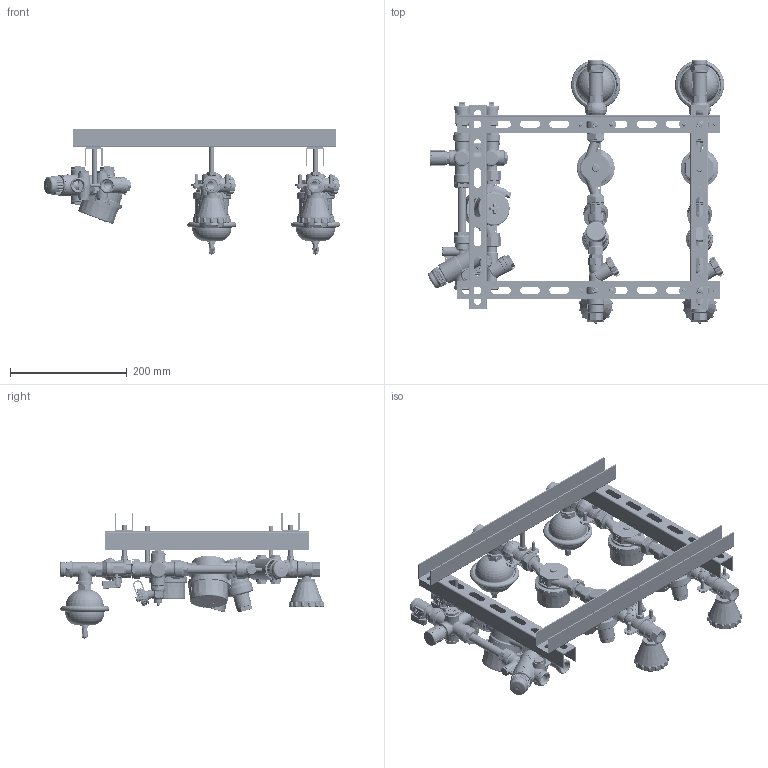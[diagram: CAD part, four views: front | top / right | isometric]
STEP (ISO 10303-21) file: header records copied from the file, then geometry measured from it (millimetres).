
FILE_DESCRIPTION(('STEP AP242'), '1');
FILE_NAME('覆.494726.030.000 捘 - VT.LB.VD.MW', '', ('UNSPECIFIED'), ('UNSPECIFIED'), 'C3D Converter', 'C3D Toolkit', '');
FILE_SCHEMA(('AP242_MANAGED_MODEL_BASED_3D_ENGINEERING_MIM_LF { 1 0 10303 442 1 1 4 }'));
Length unit declared in the file: millimetre
Products named in the file (245): ВР.494726.030.000 СБ; ВР.494726.007.001-01; ВР.407262.001.000 СБ; ВР.407262.001.002 СБ; ВР.407262.001.002.001 СБ; ВР.731464.001; ВР.407262.001.002.001.001 СБ; ВР.711151.002; ВР.713121.001; ВР.407262.001.002.002 СБ; ВР.753192.011; ВР.715113.001; ВР.711141.015; ВР.407262.001.002.003 СБ; ВР.753181.004; ВР.305323.014; ВР.711242.001; ВР.711141.016; ВР.752676.001; ВР.753192.012; ВР.407262.001.001 СБ; ВР.753192.013; ВР.711144.001; ВР.753191.014; ВР.407262.001.001.001 СБ; ВР.753181.005; ВР.711141.017; ВР.753181.006; ВР.713321.001; ВР.711323.001; ВР.715111.002; ВР.753181.007; ВР.753181.008; ВР.722551.001; ВР.753182.012; ВР.711642.001; ВР.711642.001-01; ВР.711642.001-02; ВР.711642.001-03; ВР.711642.001-04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
Assembly tree (306 placements, depth 9):
  ВР.494726.030.000 СБ
    ВР.494726.007.001-01
      ВР.407262.001.000 СБ  x2
        ВР.407262.001.002 СБ
          ВР.407262.001.002.001 СБ
            ВР.731464.001
            ВР.407262.001.002.001.001 СБ
              ВР.711151.002
              ВР.713121.001
          ВР.407262.001.002.002 СБ
            ВР.753192.011
              ВР.715113.001
            ВР.711141.015
          ВР.407262.001.002.003 СБ
            ВР.753181.004
            ВР.407262.001.002.001.001 СБ
              ВР.711151.002
              ВР.713121.001
          ВР.305323.014
          (unnamed)
          ВР.711242.001
          ВР.711141.016
          ВР.752676.001
        ВР.753192.012
        ВР.407262.001.001 СБ
          ВР.753192.013
          ВР.711144.001
          ВР.753191.014
          ВР.407262.001.001.001 СБ
            ВР.753181.005
            ВР.711141.017
          (unnamed)
          ВР.753181.006
          ВР.713321.001
          ВР.711323.001
          ВР.715111.002  x2
          ВР.753181.007
          ВР.753181.008
          ВР.722551.001
          ВР.753182.012  x7
          ВР.711642.001
          ВР.711642.001-01
          ВР.711642.001-02
          ВР.711642.001-03
          ВР.711642.001-04
          ВР.711642.001-05
          ВР.711642.002
          ВР.711642.003
          (unnamed)
          ВР.753191.013
        ВР.302638.003.000 СБ
          ВР.753136.002
          ВР.758422.017
          ВР.305323.012
        ВР.302638.004.000 СБ
          ВР.753137.012
          ВР.758422.017
          ВР.305323.012
          ВР.494149.001.000 СБ
            ВР.753182.013
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Bounding box: 507.8 x 452.02 x 215.03 mm (x, y, z)
Volume: 1587673.2 mm3; surface area: 1286085.3 mm2
Topology: 369 solids, 372 shells, 28898 faces, 78012 edges, 51351 vertices
Faces by surface type: plane 11503, extrusion 7672, cylinder 5902, cone 1691, bspline 1166, torus 873, sphere 91
Full cylindrical faces by diameter (mm): 0.4 x4, 0.6 x23, 0.7 x2, 0.8 x12, 1 x10, 1.1 x308, 1.2 x22, 1.3 x15, 1.5 x53, 1.55 x2, 1.6 x22, 1.66 x4, 1.7 x3, 1.8 x10, 1.9 x5, 2 x35, 2.1 x4, 2.2 x11, 2.3 x2, 2.4 x2, 2.5 x13, 2.6 x1, 2.7 x2, 2.8 x1, 3 x86, 3.2 x2, 3.242 x2, 3.4 x34, 3.5 x14, 3.6 x5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
Entity records: 757253 total; most frequent: CARTESIAN_POINT 359925, ORIENTED_EDGE 82650, DIRECTION 63666, EDGE_CURVE 41330, VERTEX_POINT 28050, VECTOR 23012, AXIS2_PLACEMENT_3D 20327, EDGE_LOOP 19403
